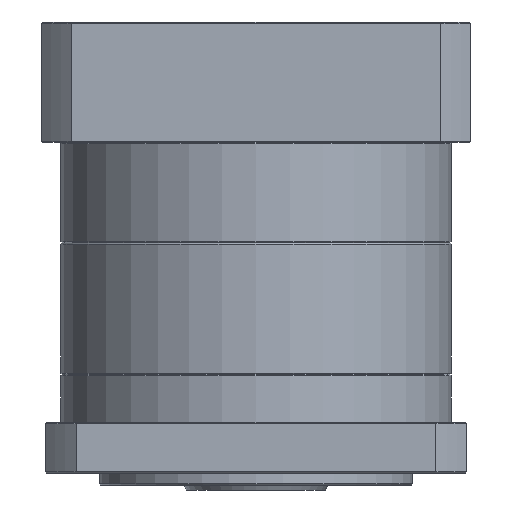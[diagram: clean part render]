
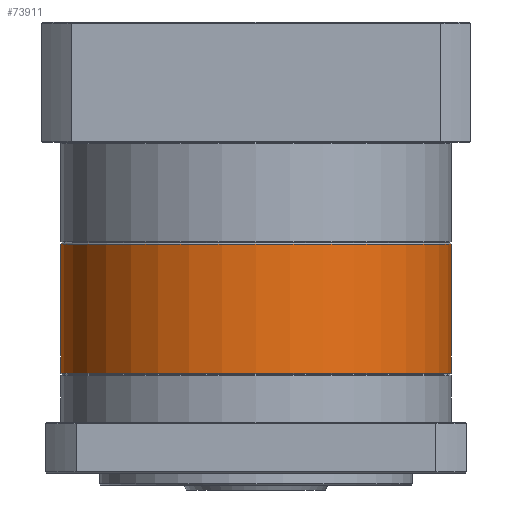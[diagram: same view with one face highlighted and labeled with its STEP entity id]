
A CAD part, front view. The second image highlights one B-rep face of the part: STEP entity #73911.
In plain terms, the highlighted cylindrical face has radius 81 mm (diameter 162 mm), a partial arc.
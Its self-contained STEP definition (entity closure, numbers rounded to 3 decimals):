
#2301 = CYLINDRICAL_SURFACE ( 'NONE', #116959, 81. ) ;
#4167 = FACE_OUTER_BOUND ( 'NONE', #124539, .T. ) ;
#6617 = VERTEX_POINT ( 'NONE', #25191 ) ;
#8114 = ORIENTED_EDGE ( 'NONE', *, *, #114098, .F. ) ;
#8206 = EDGE_CURVE ( 'NONE', #6617, #41548, #59461, .T. ) ;
#15643 = CARTESIAN_POINT ( 'NONE',  ( -97.295, 74.934, -94.264 ) ) ;
#17059 = CARTESIAN_POINT ( 'NONE',  ( -178.295, 74.934, -94.264 ) ) ;
#17103 = CARTESIAN_POINT ( 'NONE',  ( -97.295, 74.934, -94.764 ) ) ;
#17480 = CIRCLE ( 'NONE', #119418, 81. ) ;
#18390 = CARTESIAN_POINT ( 'NONE',  ( -178.295, 74.934, -148.264 ) ) ;
#20902 = DIRECTION ( 'NONE',  ( 0., 0., -1. ) ) ;
#22588 = VECTOR ( 'NONE', #20902, 1000. ) ;
#25191 = CARTESIAN_POINT ( 'NONE',  ( -178.295, 74.934, -94.764 ) ) ;
#28119 = DIRECTION ( 'NONE',  ( 0., 1., 0. ) ) ;
#31603 = VECTOR ( 'NONE', #81202, 1000. ) ;
#38683 = CARTESIAN_POINT ( 'NONE',  ( -16.295, 74.934, -148.264 ) ) ;
#41548 = VERTEX_POINT ( 'NONE', #18390 ) ;
#49758 = DIRECTION ( 'NONE',  ( -1., 0., 0. ) ) ;
#52573 = CARTESIAN_POINT ( 'NONE',  ( -16.295, 74.934, -94.264 ) ) ;
#55281 = CIRCLE ( 'NONE', #72310, 81. ) ;
#55311 = EDGE_CURVE ( 'NONE', #66190, #85690, #115450, .T. ) ;
#55700 = ORIENTED_EDGE ( 'NONE', *, *, #8206, .T. ) ;
#58370 = CARTESIAN_POINT ( 'NONE',  ( -97.295, -6.066, -94.764 ) ) ;
#59461 = LINE ( 'NONE', #17059, #31603 ) ;
#60361 = LINE ( 'NONE', #52573, #22588 ) ;
#63833 = DIRECTION ( 'NONE',  ( 0., 0., 1. ) ) ;
#66190 = VERTEX_POINT ( 'NONE', #58370 ) ;
#70692 = DIRECTION ( 'NONE',  ( 0., 0., 1. ) ) ;
#72310 = AXIS2_PLACEMENT_3D ( 'NONE', #17103, #70692, #28119 ) ;
#73911 = ADVANCED_FACE ( 'NONE', ( #4167 ), #2301, .T. ) ;
#81082 = AXIS2_PLACEMENT_3D ( 'NONE', #95045, #63833, #117485 ) ;
#81202 = DIRECTION ( 'NONE',  ( 0., 0., -1. ) ) ;
#83005 = VERTEX_POINT ( 'NONE', #38683 ) ;
#83965 = EDGE_CURVE ( 'NONE', #41548, #83005, #17480, .T. ) ;
#85690 = VERTEX_POINT ( 'NONE', #96547 ) ;
#95045 = CARTESIAN_POINT ( 'NONE',  ( -97.295, 74.934, -94.764 ) ) ;
#96547 = CARTESIAN_POINT ( 'NONE',  ( -16.295, 74.934, -94.764 ) ) ;
#108969 = EDGE_CURVE ( 'NONE', #6617, #66190, #55281, .T. ) ;
#109738 = DIRECTION ( 'NONE',  ( 0., 0., -1. ) ) ;
#111618 = ORIENTED_EDGE ( 'NONE', *, *, #83965, .T. ) ;
#114098 = EDGE_CURVE ( 'NONE', #85690, #83005, #60361, .T. ) ;
#115450 = CIRCLE ( 'NONE', #81082, 81. ) ;
#116182 = ORIENTED_EDGE ( 'NONE', *, *, #108969, .F. ) ;
#116959 = AXIS2_PLACEMENT_3D ( 'NONE', #15643, #109738, #119709 ) ;
#117485 = DIRECTION ( 'NONE',  ( 0., 1., 0. ) ) ;
#119418 = AXIS2_PLACEMENT_3D ( 'NONE', #132266, #121335, #49758 ) ;
#119709 = DIRECTION ( 'NONE',  ( -1., 0., 0. ) ) ;
#121335 = DIRECTION ( 'NONE',  ( 0., 0., 1. ) ) ;
#124539 = EDGE_LOOP ( 'NONE', ( #8114, #128403, #116182, #55700, #111618 ) ) ;
#128403 = ORIENTED_EDGE ( 'NONE', *, *, #55311, .F. ) ;
#132266 = CARTESIAN_POINT ( 'NONE',  ( -97.295, 74.934, -148.264 ) ) ;
